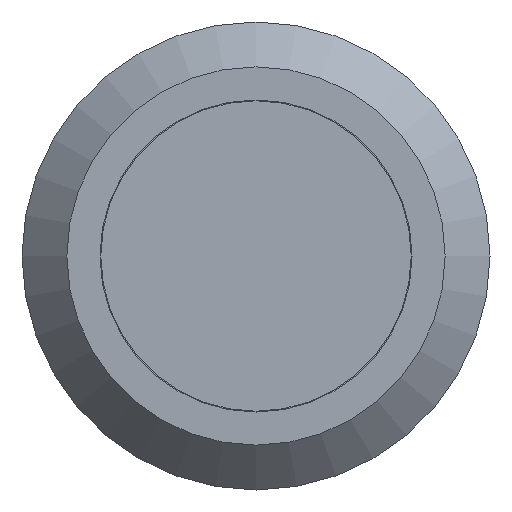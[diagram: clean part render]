
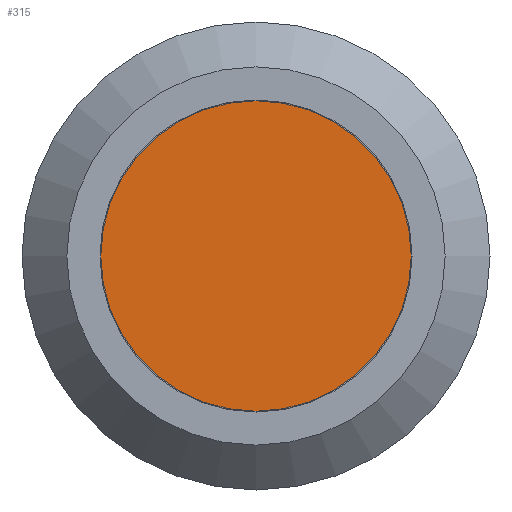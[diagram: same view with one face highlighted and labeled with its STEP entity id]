
A CAD part, front view. The second image highlights one B-rep face of the part: STEP entity #315.
In plain terms, the highlighted planar face has unit normal (0, -1, 0).
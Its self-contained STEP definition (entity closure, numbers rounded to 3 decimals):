
#96=ORIENTED_EDGE('',*,*,#164,.T.);
#164=EDGE_CURVE('',#202,#202,#223,.T.);
#202=VERTEX_POINT('',#512);
#223=CIRCLE('',#357,3.98);
#246=EDGE_LOOP('',(#96));
#276=FACE_BOUND('',#246,.T.);
#294=PLANE('',#358);
#315=ADVANCED_FACE('',(#276),#294,.F.);
#357=AXIS2_PLACEMENT_3D('',#511,#416,#417);
#358=AXIS2_PLACEMENT_3D('',#513,#418,#419);
#416=DIRECTION('',(0.,-1.,0.));
#417=DIRECTION('',(0.,0.,-1.));
#418=DIRECTION('',(0.,1.,0.));
#419=DIRECTION('',(0.,0.,1.));
#511=CARTESIAN_POINT('',(0.,0.,0.));
#512=CARTESIAN_POINT('',(0.,0.,-3.98));
#513=CARTESIAN_POINT('',(3.98,0.,0.));
